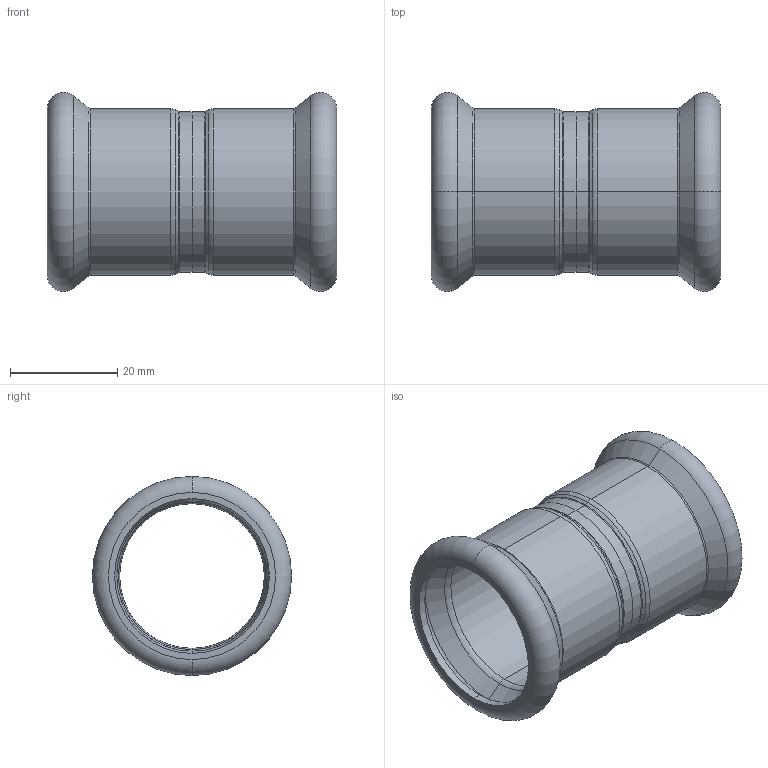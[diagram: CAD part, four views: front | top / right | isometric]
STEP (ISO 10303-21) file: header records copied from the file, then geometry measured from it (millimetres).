
FILE_DESCRIPTION (( 'STEP AP203' ), '1' );
FILE_NAME ('GDA5004.STEP', '2019-01-21T08:49:46', ( '' ), ( '' ), 'SwSTEP 2.0', 'SolidWorks 2015', '' );
FILE_SCHEMA (( 'CONFIG_CONTROL_DESIGN' ));
Length unit declared in the file: millimetre
Products named in the file (1): GDA5004
Bounding box: 54 x 37.2 x 37.2 mm (x, y, z)
Volume: 8622.6 mm3; surface area: 12047.2 mm2
Topology: 2 solids, 2 shells, 74 faces, 148 edges, 80 vertices
Faces by surface type: torus 32, cylinder 20, cone 16, plane 6
Entity records: 1999 total; most frequent: DIRECTION 410, CARTESIAN_POINT 303, ORIENTED_EDGE 296, AXIS2_PLACEMENT_3D 187, EDGE_CURVE 148, CIRCLE 112, VERTEX_POINT 80, EDGE_LOOP 80
